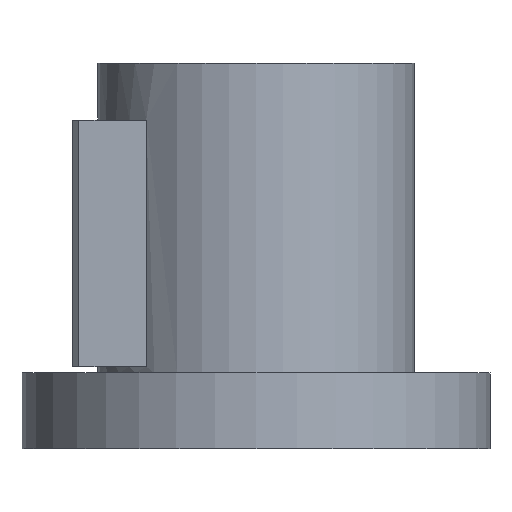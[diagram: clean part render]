
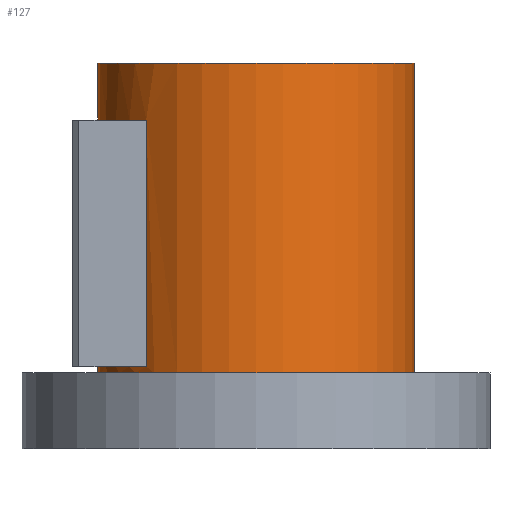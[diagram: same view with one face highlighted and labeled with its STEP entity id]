
A CAD part, front view. The second image highlights one B-rep face of the part: STEP entity #127.
In plain terms, the highlighted cylindrical face has radius 25 mm (diameter 50 mm), a full revolution.
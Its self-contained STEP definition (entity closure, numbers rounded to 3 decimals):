
#127=ADVANCED_FACE('',(#200,#201,#202),#155,.T.);
#155=CYLINDRICAL_SURFACE('',#508,25.);
#168=LINE('',#698,#184);
#169=LINE('',#702,#185);
#184=VECTOR('',#568,1.);
#185=VECTOR('',#571,1.);
#200=FACE_BOUND('',#245,.T.);
#201=FACE_BOUND('',#246,.T.);
#202=FACE_BOUND('',#247,.T.);
#245=EDGE_LOOP('',(#305));
#246=EDGE_LOOP('',(#306));
#247=EDGE_LOOP('',(#307,#308,#309,#310));
#305=ORIENTED_EDGE('',*,*,#431,.F.);
#306=ORIENTED_EDGE('',*,*,#432,.T.);
#307=ORIENTED_EDGE('',*,*,#433,.F.);
#308=ORIENTED_EDGE('',*,*,#434,.F.);
#309=ORIENTED_EDGE('',*,*,#435,.T.);
#310=ORIENTED_EDGE('',*,*,#436,.F.);
#393=VERTEX_POINT('',#692);
#394=VERTEX_POINT('',#694);
#395=VERTEX_POINT('',#696);
#396=VERTEX_POINT('',#697);
#397=VERTEX_POINT('',#699);
#398=VERTEX_POINT('',#701);
#431=EDGE_CURVE('',#393,#393,#475,.T.);
#432=EDGE_CURVE('',#394,#394,#476,.T.);
#433=EDGE_CURVE('',#395,#396,#477,.T.);
#434=EDGE_CURVE('',#397,#395,#168,.T.);
#435=EDGE_CURVE('',#397,#398,#478,.T.);
#436=EDGE_CURVE('',#396,#398,#169,.T.);
#475=CIRCLE('',#504,25.);
#476=CIRCLE('',#505,25.);
#477=CIRCLE('',#506,25.);
#478=CIRCLE('',#507,25.);
#504=AXIS2_PLACEMENT_3D('',#691,#562,#563);
#505=AXIS2_PLACEMENT_3D('',#693,#564,#565);
#506=AXIS2_PLACEMENT_3D('',#695,#566,#567);
#507=AXIS2_PLACEMENT_3D('',#700,#569,#570);
#508=AXIS2_PLACEMENT_3D('',#703,#572,#573);
#562=DIRECTION('',(0.,0.,1.));
#563=DIRECTION('',(1.,0.,0.));
#564=DIRECTION('',(0.,0.,1.));
#565=DIRECTION('',(1.,0.,0.));
#566=DIRECTION('',(0.,0.,-1.));
#567=DIRECTION('',(-1.,0.,0.));
#568=DIRECTION('',(0.,0.,1.));
#569=DIRECTION('',(0.,0.,-1.));
#570=DIRECTION('',(-1.,0.,0.));
#571=DIRECTION('',(0.,0.,-1.));
#572=DIRECTION('',(0.,0.,-1.));
#573=DIRECTION('',(-1.,0.,0.));
#691=CARTESIAN_POINT('',(0.,0.,61.));
#692=CARTESIAN_POINT('',(25.,0.,61.));
#693=CARTESIAN_POINT('',(0.,0.,12.));
#694=CARTESIAN_POINT('',(25.,0.,12.));
#695=CARTESIAN_POINT('',(0.,0.,52.));
#696=CARTESIAN_POINT('',(-17.349,-18.,52.));
#697=CARTESIAN_POINT('',(-17.349,18.,52.));
#698=CARTESIAN_POINT('',(-17.349,-18.,61.));
#699=CARTESIAN_POINT('',(-17.349,-18.,13.));
#700=CARTESIAN_POINT('',(0.,0.,13.));
#701=CARTESIAN_POINT('',(-17.349,18.,13.));
#702=CARTESIAN_POINT('',(-17.349,18.,61.));
#703=CARTESIAN_POINT('',(0.,0.,61.));
